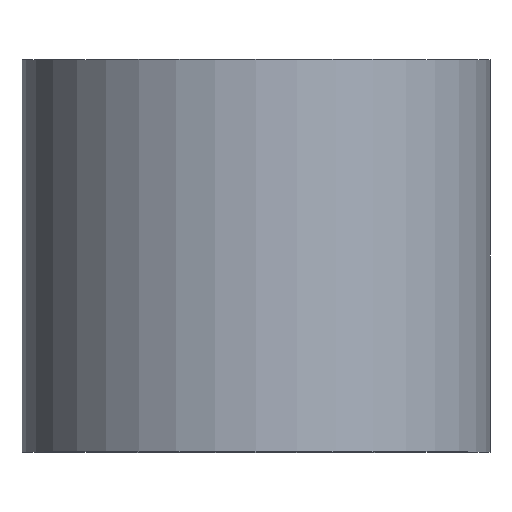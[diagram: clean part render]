
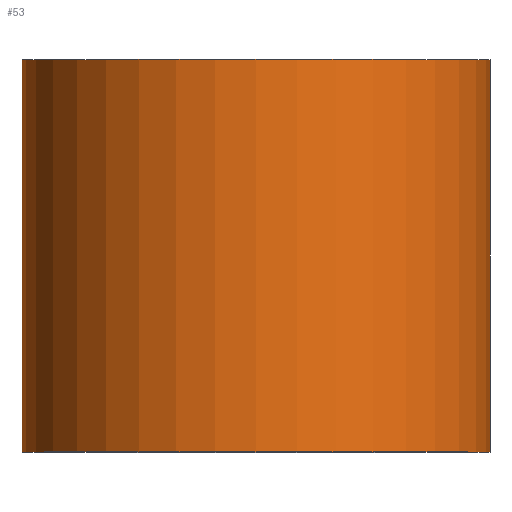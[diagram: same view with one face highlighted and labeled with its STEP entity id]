
A CAD part, top view. The second image highlights one B-rep face of the part: STEP entity #53.
In plain terms, the highlighted cylindrical face has radius 4.175 mm (diameter 8.35 mm), a full revolution.
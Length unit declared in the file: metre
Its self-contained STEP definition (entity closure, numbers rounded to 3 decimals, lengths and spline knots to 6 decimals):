
#16=ORIENTED_EDGE('',*,*,#24,.F.);
#17=ORIENTED_EDGE('',*,*,#25,.T.);
#24=EDGE_CURVE('',#28,#28,#32,.T.);
#25=EDGE_CURVE('',#29,#29,#33,.T.);
#28=VERTEX_POINT('',#103);
#29=VERTEX_POINT('',#105);
#32=CIRCLE('',#73,0.004175);
#33=CIRCLE('',#74,0.004175);
#36=EDGE_LOOP('',(#16));
#37=EDGE_LOOP('',(#17));
#44=FACE_BOUND('',#36,.T.);
#45=FACE_BOUND('',#37,.T.);
#51=CYLINDRICAL_SURFACE('',#72,0.004175);
#53=ADVANCED_FACE('',(#44,#45),#51,.T.);
#72=AXIS2_PLACEMENT_3D('',#101,#85,#86);
#73=AXIS2_PLACEMENT_3D('',#102,#87,#88);
#74=AXIS2_PLACEMENT_3D('',#104,#89,#90);
#85=DIRECTION('',(0.,1.,0.));
#86=DIRECTION('',(0.,0.,1.));
#87=DIRECTION('',(0.,-1.,0.));
#88=DIRECTION('',(0.,0.,-1.));
#89=DIRECTION('',(0.,-1.,0.));
#90=DIRECTION('',(0.,0.,-1.));
#101=CARTESIAN_POINT('',(0.,-0.007,0.));
#102=CARTESIAN_POINT('',(0.,-0.007,0.));
#103=CARTESIAN_POINT('',(0.,-0.007,-0.004175));
#104=CARTESIAN_POINT('',(0.,0.,0.));
#105=CARTESIAN_POINT('',(0.,0.,-0.004175));
